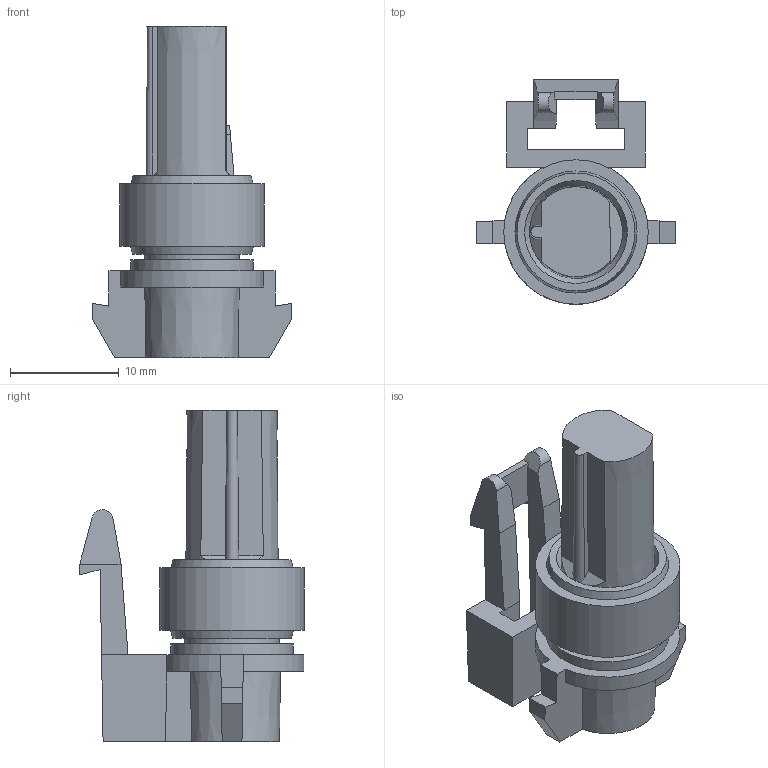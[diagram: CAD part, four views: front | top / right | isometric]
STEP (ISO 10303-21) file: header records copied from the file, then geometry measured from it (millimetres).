
FILE_DESCRIPTION(/* description */ (''),/* implementation_level */ '2;1');
FILE_NAME(/* name */ '12065172-ENV1104.stp',/* time_stamp */ '2019-07-24T17:14:10+06:00',/* author */ (''),/* organization */ (''),/* preprocessor_version */ 'ST-DEVELOPER v16',/* originating_system */ 'SIEMENS PLM Software NX 11.0',/* authorisation */ '');
FILE_SCHEMA (('AUTOMOTIVE_DESIGN { 1 0 10303 214 3 1 1 1 }'));
Length unit declared in the file: millimetre
Products named in the file (1): 12065172-ENV11_04-CONN
Bounding box: 18.3 x 20.68 x 30.5 mm (x, y, z)
Volume: 3014.9 mm3; surface area: 2292.7 mm2
Topology: 1 solids, 1 shells, 88 faces, 238 edges, 156 vertices
Faces by surface type: plane 71, cone 10, cylinder 7
Full cylindrical faces by diameter (mm): 11.3 x1, 13.3 x1
Entity records: 2677 total; most frequent: CARTESIAN_POINT 502, ORIENTED_EDGE 446, DIRECTION 431, EDGE_CURVE 223, LINE 171, VECTOR 171, VERTEX_POINT 149, AXIS2_PLACEMENT_3D 130
